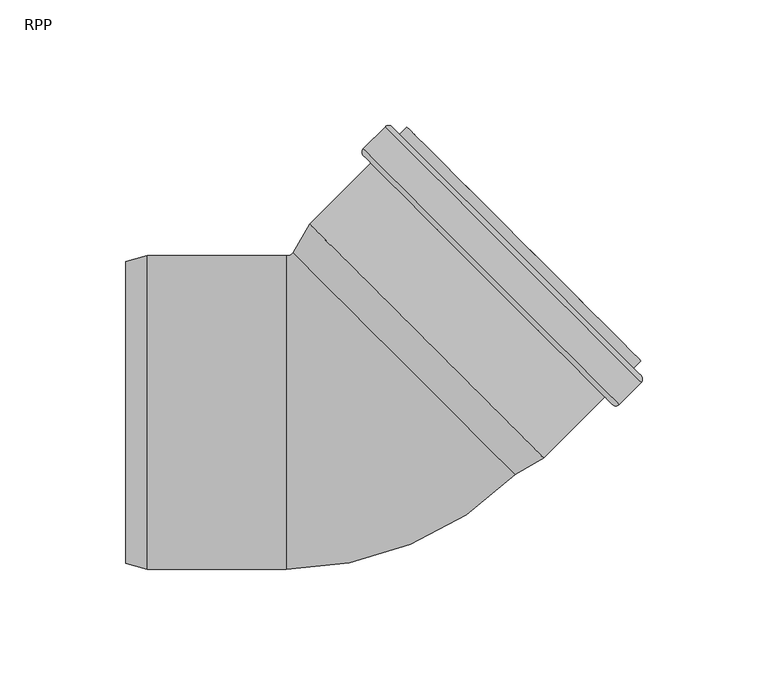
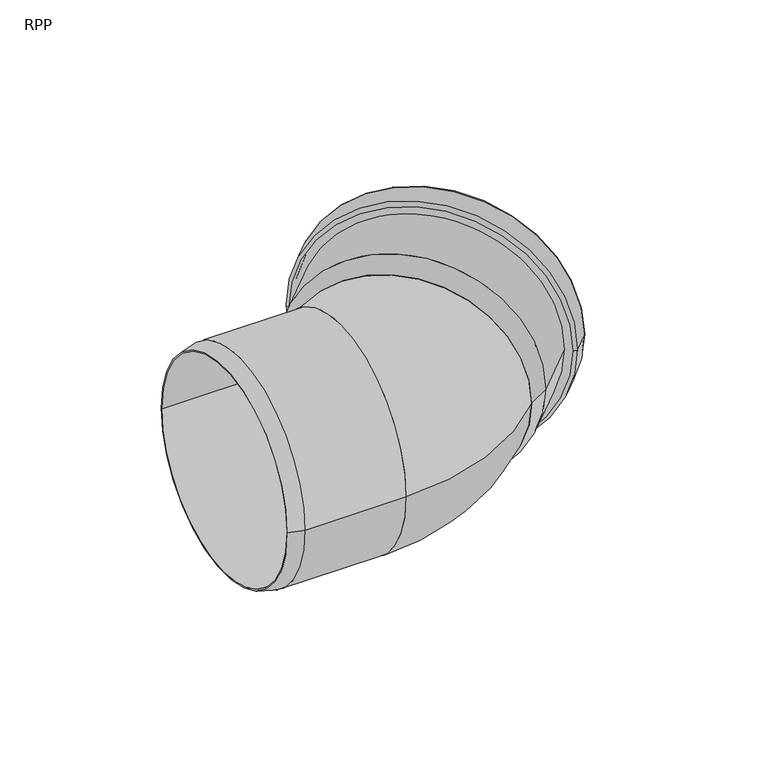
"""IFC4 building model written with IfcOpenShell, lengths in millimetres: pipe fitting geometry, RAUPIANO PLUS Bend : RPP."""

from ifc_helpers import new_model, si_unit, point, frame, origin, place, context, project, spatial, polyline, circle_curve, ellipse_curve, trimmed, source, transform, mapped, element, save
from ifc_brep_helpers import plane_surface, cylinder_surface, revolved_surface, advanced_brep


def rpp_f0f5f403(model_context):
    return source(origin(), model_context, "Body", "AdvancedBrep", [
        advanced_brep(
        [(61.4022154, -22.4474173, 0.0), (-22.4474173, 61.4022154, 0.0), (-15.6678618, 73.1447499, 0.0), (73.1447499, -15.6678618, 0.0), (75.0481946, -18.1484792, 0.0), (-18.1484792, 75.0481946, 0.0), (-24.7167748, 63.6715729, 0.0), (63.6715729, -24.7167748, 0.0), (99.3804653, 6.1837916, 0.0), (6.1837916, 99.3804653, 0.0), (113.8054437, 11.8406458, 0.0), (11.8406458, 113.8054437, 0.0), (3.2139431, 105.1787409, 0.0), (105.1787409, 3.2139431, 0.0), (113.734733, 20.5380592, 0.0), (20.5380592, 113.734733, 0.0), (17.6389214, 110.8355952, 0.0), (110.8355952, 17.6389214, 0.0), (106.4515331, 17.6389214, 0.0), (17.6389214, 106.4515331, 0.0), (22.7300902, 111.542702, 0.0), (111.542702, 22.7300902, 0.0), (104.1180808, 6.537345, 0.0), (6.537345, 104.1180808, 0.0), (12.901306, 110.4820418, 0.0), (110.4820418, 12.901306, 0.0), (10.5678536, 99.3804653, 0.0), (99.3804653, 10.5678536, 0.0), (3.2139431, 102.3503138, 0.0), (102.3503138, 3.2139431, 0.0), (113.8054437, 14.6690729, 0.0), (14.6690729, 113.8054437, 0.0), (13.6084128, 110.4820418, 0.0), (110.4820418, 13.6084128, 0.0), (103.410974, 6.537345, 0.0), (6.537345, 103.410974, 0.0)],
        [
            (0, 1, circle_curve(frame((19.4773991, 19.4773991, 0.0), z_axis=(-0.7071067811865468, -0.7071067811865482, 0.0), x_axis=(-0.7071067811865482, 0.7071067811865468, 0.0)), 59.2906438)),
            (1, 2),
            (2, 3, circle_curve(frame((28.7384441, 28.7384441, 0.0), z_axis=(0.7071067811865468, 0.7071067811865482, 0.0), x_axis=(-0.7071067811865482, 0.7071067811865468, 0.0)), 62.8)),
            (3, 0),
            (4, 5, circle_curve(frame((28.4498577, 28.4498577, 0.0), z_axis=(-0.7071067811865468, -0.7071067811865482, 0.0), x_axis=(-0.7071067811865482, 0.7071067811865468, 0.0)), 65.9)),
            (5, 6),
            (6, 7, circle_curve(frame((19.4773991, 19.4773991, 0.0), z_axis=(0.7071067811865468, 0.7071067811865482, 0.0), x_axis=(-0.7071067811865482, 0.7071067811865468, 0.0)), 62.5)),
            (7, 4),
            (8, 9, circle_curve(frame((52.7821284, 52.7821284, 0.0), z_axis=(-0.7071067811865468, -0.7071067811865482, 0.0), x_axis=(-0.7071067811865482, 0.7071067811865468, 0.0)), 65.9)),
            (9, 5),
            (4, 8),
            (10, 11, circle_curve(frame((62.8230447, 62.8230447, 0.0), z_axis=(-0.7071067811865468, -0.7071067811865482, 0.0), x_axis=(-0.7071067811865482, 0.7071067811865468, 0.0)), 72.1)),
            (11, 12),
            (12, 13, circle_curve(frame((54.196342, 54.196342, 0.0), z_axis=(0.7071067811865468, 0.7071067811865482, 0.0), x_axis=(-0.7071067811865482, 0.7071067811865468, 0.0)), 72.1)),
            (13, 10),
            (14, 15, circle_curve(frame((67.1363961, 67.1363961, 0.0), z_axis=(-0.7071067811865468, -0.7071067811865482, 0.0), x_axis=(-0.7071067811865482, 0.7071067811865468, 0.0)), 65.9)),
            (15, 16),
            (16, 17, circle_curve(frame((64.2372583, 64.2372583, 0.0), z_axis=(0.7071067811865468, 0.7071067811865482, 0.0), x_axis=(-0.7071067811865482, 0.7071067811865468, 0.0)), 65.9)),
            (17, 14),
            (18, 19, circle_curve(frame((62.0452273, 62.0452273, 0.0), z_axis=(-0.7071067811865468, -0.7071067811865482, 0.0), x_axis=(-0.7071067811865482, 0.7071067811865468, 0.0)), 62.8)),
            (19, 20),
            (20, 21, circle_curve(frame((67.1363961, 67.1363961, 0.0), z_axis=(0.7071067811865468, 0.7071067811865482, 0.0), x_axis=(-0.7071067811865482, 0.7071067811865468, 0.0)), 62.8)),
            (21, 18),
            (22, 23, circle_curve(frame((55.3277129, 55.3277129, 0.0), z_axis=(-0.7071067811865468, -0.7071067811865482, 0.0), x_axis=(-0.7071067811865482, 0.7071067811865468, 0.0)), 69.0)),
            (23, 24),
            (24, 25, circle_curve(frame((61.6916739, 61.6916739, 0.0), z_axis=(0.7071067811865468, 0.7071067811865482, 0.0), x_axis=(-0.7071067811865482, 0.7071067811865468, 0.0)), 69.0)),
            (25, 22),
            (2, 26),
            (26, 27, circle_curve(frame((54.9741595, 54.9741595, 0.0), z_axis=(0.7071067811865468, 0.7071067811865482, 0.0), x_axis=(-0.7071067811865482, 0.7071067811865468, 0.0)), 62.8)),
            (27, 3),
            (1, 0, circle_curve(frame((19.4773991, 19.4773991, 0.0), z_axis=(-0.7071067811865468, -0.7071067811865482, 0.0), x_axis=(0.7071067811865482, -0.7071067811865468, 0.0)), 59.2906438)),
            (3, 2, circle_curve(frame((28.7384441, 28.7384441, 0.0), z_axis=(0.7071067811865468, 0.7071067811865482, 0.0), x_axis=(0.7071067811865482, -0.7071067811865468, 0.0)), 62.8)),
            (6, 7, circle_curve(frame((19.4773991, 19.4773991, 0.0), z_axis=(-0.7071067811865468, -0.7071067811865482, 0.0), x_axis=(0.7071067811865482, -0.7071067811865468, 0.0)), 62.5)),
            (5, 4, circle_curve(frame((28.4498577, 28.4498577, 0.0), z_axis=(-0.7071067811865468, -0.7071067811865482, 0.0), x_axis=(0.7071067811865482, -0.7071067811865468, 0.0)), 65.9)),
            (9, 8, circle_curve(frame((52.7821284, 52.7821284, 0.0), z_axis=(-0.7071067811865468, -0.7071067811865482, 0.0), x_axis=(0.7071067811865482, -0.7071067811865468, 0.0)), 65.9)),
            (28, 29, circle_curve(frame((52.7821284, 52.7821284, 0.0), z_axis=(-0.7071067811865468, -0.7071067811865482, 0.0), x_axis=(0.7071067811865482, -0.7071067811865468, 0.0)), 70.1)),
            (29, 28, circle_curve(frame((52.7821284, 52.7821284, 0.0), z_axis=(-0.7071067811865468, -0.7071067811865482, 0.0), x_axis=(-0.7071067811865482, 0.7071067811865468, 0.0)), 70.1)),
            (11, 10, circle_curve(frame((62.8230447, 62.8230447, 0.0), z_axis=(-0.7071067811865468, -0.7071067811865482, 0.0), x_axis=(0.7071067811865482, -0.7071067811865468, 0.0)), 72.1)),
            (13, 12, circle_curve(frame((54.196342, 54.196342, 0.0), z_axis=(0.7071067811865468, 0.7071067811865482, 0.0), x_axis=(0.7071067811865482, -0.7071067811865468, 0.0)), 72.1)),
            (30, 31, circle_curve(frame((64.2372583, 64.2372583, 0.0), z_axis=(0.7071067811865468, 0.7071067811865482, 0.0), x_axis=(0.7071067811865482, -0.7071067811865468, 0.0)), 70.1)),
            (31, 30, circle_curve(frame((64.2372583, 64.2372583, 0.0), z_axis=(0.7071067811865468, 0.7071067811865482, 0.0), x_axis=(-0.7071067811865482, 0.7071067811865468, 0.0)), 70.1)),
            (16, 17, circle_curve(frame((64.2372583, 64.2372583, 0.0), z_axis=(-0.7071067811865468, -0.7071067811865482, 0.0), x_axis=(0.7071067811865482, -0.7071067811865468, 0.0)), 65.9)),
            (15, 14, circle_curve(frame((67.1363961, 67.1363961, 0.0), z_axis=(-0.7071067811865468, -0.7071067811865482, 0.0), x_axis=(0.7071067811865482, -0.7071067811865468, 0.0)), 65.9)),
            (20, 21, circle_curve(frame((67.1363961, 67.1363961, 0.0), z_axis=(-0.7071067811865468, -0.7071067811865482, 0.0), x_axis=(0.7071067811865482, -0.7071067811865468, 0.0)), 62.8)),
            (19, 18, circle_curve(frame((62.0452273, 62.0452273, 0.0), z_axis=(-0.7071067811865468, -0.7071067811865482, 0.0), x_axis=(0.7071067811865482, -0.7071067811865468, 0.0)), 62.8)),
            (32, 33, circle_curve(frame((62.0452273, 62.0452273, 0.0), z_axis=(-0.7071067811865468, -0.7071067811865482, 0.0), x_axis=(0.7071067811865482, -0.7071067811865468, 0.0)), 68.5)),
            (33, 32, circle_curve(frame((62.0452273, 62.0452273, 0.0), z_axis=(-0.7071067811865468, -0.7071067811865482, 0.0), x_axis=(-0.7071067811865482, 0.7071067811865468, 0.0)), 68.5)),
            (23, 22, circle_curve(frame((55.3277129, 55.3277129, 0.0), z_axis=(-0.7071067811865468, -0.7071067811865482, 0.0), x_axis=(0.7071067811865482, -0.7071067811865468, 0.0)), 69.0)),
            (25, 24, circle_curve(frame((61.6916739, 61.6916739, 0.0), z_axis=(0.7071067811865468, 0.7071067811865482, 0.0), x_axis=(0.7071067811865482, -0.7071067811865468, 0.0)), 69.0)),
            (34, 35, circle_curve(frame((54.9741595, 54.9741595, 0.0), z_axis=(0.7071067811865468, 0.7071067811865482, 0.0), x_axis=(0.7071067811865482, -0.7071067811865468, 0.0)), 68.5)),
            (35, 34, circle_curve(frame((54.9741595, 54.9741595, 0.0), z_axis=(0.7071067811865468, 0.7071067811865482, 0.0), x_axis=(-0.7071067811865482, 0.7071067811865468, 0.0)), 68.5)),
            (26, 27, circle_curve(frame((54.9741595, 54.9741595, 0.0), z_axis=(-0.7071067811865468, -0.7071067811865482, 0.0), x_axis=(0.7071067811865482, -0.7071067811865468, 0.0)), 62.8)),
            (12, 28, circle_curve(frame((4.6281566, 103.7645274, 0.0), z_axis=(0.0, 0.0, 1.0), x_axis=(0.7071067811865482, -0.7071067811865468, 0.0)), 2.0)),
            (29, 13, circle_curve(frame((103.7645274, 4.6281566, 0.0), z_axis=(0.0, 0.0, 1.0), x_axis=(-0.7071067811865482, 0.7071067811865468, 0.0)), 2.0)),
            (31, 11, circle_curve(frame((13.2548594, 112.3912301, 0.0), z_axis=(0.0, 0.0, 1.0), x_axis=(0.7071067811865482, -0.7071067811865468, 0.0)), 2.0)),
            (10, 30, circle_curve(frame((112.3912301, 13.2548594, 0.0), z_axis=(0.0, 0.0, 1.0), x_axis=(-0.7071067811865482, 0.7071067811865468, 0.0)), 2.0)),
            (24, 32, circle_curve(frame((13.2548594, 110.1284884, 0.0), z_axis=(0.0, 0.0, -1.0), x_axis=(0.7071067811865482, -0.7071067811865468, 0.0)), 0.5)),
            (33, 25, circle_curve(frame((110.1284884, 13.2548594, 0.0), z_axis=(0.0, 0.0, -1.0), x_axis=(-0.7071067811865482, 0.7071067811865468, 0.0)), 0.5)),
            (35, 23, circle_curve(frame((6.8908983, 103.7645274, 0.0), z_axis=(0.0, 0.0, -1.0), x_axis=(0.7071067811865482, -0.7071067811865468, 0.0)), 0.5)),
            (22, 34, circle_curve(frame((103.7645274, 6.8908983, 0.0), z_axis=(0.0, 0.0, -1.0), x_axis=(-0.7071067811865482, 0.7071067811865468, 0.0)), 0.5)),
        ],
        [
            revolved_surface(polyline([(-15.6678618, 73.1447499, 0.0), (-22.4474173, 61.4022154, 0.0)]), (19.4773991, 19.4773991, 0.0), (0.7071067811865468, 0.7071067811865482, 0.0)),
            revolved_surface(polyline([(-24.7167748, 63.6715729, 0.0), (-18.1484792, 75.0481946, 0.0)]), (19.4773991, 19.4773991, 0.0), (0.7071067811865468, 0.7071067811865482, 0.0)),
            cylinder_surface(frame((19.4773991, 19.4773991, 0.0), z_axis=(0.7071067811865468, 0.7071067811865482, 0.0), x_axis=(-0.7071067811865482, 0.7071067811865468, 0.0)), 65.9),
            cylinder_surface(frame((19.4773991, 19.4773991, 0.0), z_axis=(0.7071067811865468, 0.7071067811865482, 0.0), x_axis=(-0.7071067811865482, 0.7071067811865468, 0.0)), 72.1),
            revolved_surface(polyline([(22.730090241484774, 111.54270195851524, 0.0), (17.638921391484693, 106.45153310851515, 0.0)]), (19.4773991, 19.4773991, 0.0), (0.7071067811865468, 0.7071067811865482, 0.0)),
            revolved_surface(polyline([(12.901305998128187, 110.48204180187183, 0.0), (6.537344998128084, 104.11808080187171, 0.0)]), (19.4773991, 19.4773991, 0.0), (0.7071067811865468, 0.7071067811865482, 0.0)),
            revolved_surface(polyline([(10.567853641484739, 99.38046535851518, 0.0), (-15.66786180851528, 73.14474990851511, 0.0)]), (19.4773991, 19.4773991, 0.0), (0.7071067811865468, 0.7071067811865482, 0.0)),
            revolved_surface(polyline([(73.1447499, -15.6678618, 0.0), (61.4022154, -22.4474173, 0.0)]), (19.4773991, 19.4773991, 0.0), (0.7071067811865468, 0.7071067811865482, 0.0)),
            plane_surface(frame((19.4773991, 19.4773991, 0.0), z_axis=(-0.7071067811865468, -0.7071067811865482, 0.0), x_axis=(0.7071067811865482, -0.7071067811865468, 0.0))),
            revolved_surface(polyline([(63.6715729, -24.7167748, 0.0), (75.0481946, -18.1484792, 0.0)]), (19.4773991, 19.4773991, 0.0), (0.7071067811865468, 0.7071067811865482, 0.0)),
            cylinder_surface(frame((19.4773991, 19.4773991, 0.0), z_axis=(0.7071067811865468, 0.7071067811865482, 0.0), x_axis=(0.7071067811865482, -0.7071067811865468, 0.0)), 65.9),
            plane_surface(frame((52.7821284, 52.7821284, 0.0), z_axis=(-0.7071067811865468, -0.7071067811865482, 0.0), x_axis=(0.7071067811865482, -0.7071067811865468, 0.0))),
            cylinder_surface(frame((19.4773991, 19.4773991, 0.0), z_axis=(0.7071067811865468, 0.7071067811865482, 0.0), x_axis=(0.7071067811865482, -0.7071067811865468, 0.0)), 72.1),
            plane_surface(frame((64.2372583, 64.2372583, 0.0), z_axis=(0.7071067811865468, 0.7071067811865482, 0.0), x_axis=(0.7071067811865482, -0.7071067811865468, 0.0))),
            plane_surface(frame((67.1363961, 67.1363961, 0.0), z_axis=(0.7071067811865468, 0.7071067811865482, 0.0), x_axis=(0.7071067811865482, -0.7071067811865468, 0.0))),
            revolved_surface(polyline([(111.54270195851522, 22.73009024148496, 0.0), (106.45153310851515, 17.638921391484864, 0.0)]), (19.4773991, 19.4773991, 0.0), (0.7071067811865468, 0.7071067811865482, 0.0)),
            plane_surface(frame((62.0452273, 62.0452273, 0.0), z_axis=(-0.7071067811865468, -0.7071067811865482, 0.0), x_axis=(0.7071067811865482, -0.7071067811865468, 0.0))),
            revolved_surface(polyline([(110.48204180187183, 12.901305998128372, 0.0), (104.11808080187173, 6.537344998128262, 0.0)]), (19.4773991, 19.4773991, 0.0), (0.7071067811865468, 0.7071067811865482, 0.0)),
            plane_surface(frame((54.9741595, 54.9741595, 0.0), z_axis=(0.7071067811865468, 0.7071067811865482, 0.0), x_axis=(0.7071067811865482, -0.7071067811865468, 0.0))),
            revolved_surface(polyline([(99.38046535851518, 10.567853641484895, 0.0), (73.14474990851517, -15.667861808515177, 0.0)]), (19.4773991, 19.4773991, 0.0), (0.7071067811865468, 0.7071067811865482, 0.0)),
            revolved_surface(trimmed(ellipse_curve(frame((4.6281566, 103.7645274, 0.0), z_axis=(0.0, 0.0, -1.0), x_axis=(0.7071067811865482, -0.7071067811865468, 0.0)), 2.0, 2.0), [point((3.2139431, 102.3503138, 0.0))], [point((3.2139431, 105.1787409, 0.0))], True, "CARTESIAN"), (19.4773991, 19.4773991, 0.0), (0.7071067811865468, 0.7071067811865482, 0.0)),
            revolved_surface(trimmed(ellipse_curve(frame((13.2548594, 112.3912301, 0.0), z_axis=(0.0, 0.0, -1.0), x_axis=(0.7071067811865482, -0.7071067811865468, 0.0)), 2.0, 2.0), [point((11.8406458, 113.8054437, 0.0))], [point((14.6690729, 113.8054437, 0.0))], True, "CARTESIAN"), (19.4773991, 19.4773991, 0.0), (0.7071067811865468, 0.7071067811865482, 0.0)),
            revolved_surface(trimmed(ellipse_curve(frame((13.2548594, 110.1284884, 0.0), z_axis=(0.0, 0.0, 1.0), x_axis=(0.7071067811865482, -0.7071067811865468, 0.0)), 0.5, 0.5), [point((13.6084128, 110.4820418, 0.0))], [point((12.901306, 110.4820418, 0.0))], True, "CARTESIAN"), (19.4773991, 19.4773991, 0.0), (0.7071067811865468, 0.7071067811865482, 0.0)),
            revolved_surface(trimmed(ellipse_curve(frame((6.8908983, 103.7645274, 0.0), z_axis=(0.0, 0.0, 1.0), x_axis=(0.7071067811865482, -0.7071067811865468, 0.0)), 0.5, 0.5), [point((6.537345, 104.1180808, 0.0))], [point((6.537345, 103.410974, 0.0))], True, "CARTESIAN"), (19.4773991, 19.4773991, 0.0), (0.7071067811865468, 0.7071067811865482, 0.0)),
            revolved_surface(trimmed(ellipse_curve(frame((103.7645274, 4.6281566, 0.0), z_axis=(0.0, 0.0, 1.0), x_axis=(-0.7071067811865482, 0.7071067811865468, 0.0)), 2.0, 2.0), [point((102.3503138, 3.2139431, 0.0))], [point((105.1787409, 3.2139431, 0.0))], True, "CARTESIAN"), (19.4773991, 19.4773991, 0.0), (0.7071067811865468, 0.7071067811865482, 0.0)),
            revolved_surface(trimmed(ellipse_curve(frame((112.3912301, 13.2548594, 0.0), z_axis=(0.0, 0.0, 1.0), x_axis=(-0.7071067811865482, 0.7071067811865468, 0.0)), 2.0, 2.0), [point((113.8054437, 11.8406458, 0.0))], [point((113.8054437, 14.6690729, 0.0))], True, "CARTESIAN"), (19.4773991, 19.4773991, 0.0), (0.7071067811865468, 0.7071067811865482, 0.0)),
            revolved_surface(trimmed(ellipse_curve(frame((110.1284884, 13.2548594, 0.0), z_axis=(0.0, 0.0, -1.0), x_axis=(-0.7071067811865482, 0.7071067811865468, 0.0)), 0.5, 0.5), [point((110.4820418, 13.6084128, 0.0))], [point((110.4820418, 12.901306, 0.0))], True, "CARTESIAN"), (19.4773991, 19.4773991, 0.0), (0.7071067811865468, 0.7071067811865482, 0.0)),
            revolved_surface(trimmed(ellipse_curve(frame((103.7645274, 6.8908983, 0.0), z_axis=(0.0, 0.0, -1.0), x_axis=(-0.7071067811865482, 0.7071067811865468, 0.0)), 0.5, 0.5), [point((104.1180808, 6.537345, 0.0))], [point((103.410974, 6.537345, 0.0))], True, "CARTESIAN"), (19.4773991, 19.4773991, 0.0), (0.7071067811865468, 0.7071067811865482, 0.0)),
        ],
        [
            (0, [[1, 2, 3, 4]]),
            (1, [[5, 6, 7, 8]]),
            (2, [[9, 10, -5, 11]]),
            (3, [[12, 13, 14, 15]]),
            (2, [[16, 17, 18, 19]]),
            (4, [[20, 21, 22, 23]]),
            (5, [[24, 25, 26, 27]]),
            (6, [[-3, 28, 29, 30]]),
            (7, [[31, -4, 32, -2]]),
            (8, [[33, -7], [-31, -1]]),
            (9, [[34, -8, -33, -6]]),
            (10, [[35, -11, -34, -10]]),
            (11, [[36, 37], [-35, -9]]),
            (12, [[38, -15, 39, -13]]),
            (13, [[40, 41], [42, -18]]),
            (10, [[43, -19, -42, -17]]),
            (14, [[-43, -16], [44, -22]]),
            (15, [[45, -23, -44, -21]]),
            (16, [[46, 47], [-45, -20]]),
            (17, [[48, -27, 49, -25]]),
            (18, [[50, 51], [52, -29]]),
            (19, [[-32, -30, -52, -28]]),
            (20, [[-14, 53, -37, 54]]),
            (21, [[-41, 55, -12, 56]]),
            (22, [[-26, 57, -47, 58]]),
            (23, [[-51, 59, -24, 60]]),
            (24, [[-39, -54, -36, -53]]),
            (25, [[-40, -56, -38, -55]]),
            (26, [[-49, -58, -46, -57]]),
            (27, [[-50, -60, -48, -59]]),
        ],
    ),
        advanced_brep(
        [(-27.5452019, 59.4, 0.0), (-27.5452019, -59.4, 0.0), (-91.5452019, -59.4, 0.0), (-91.5452019, 59.4, 0.0), (-82.961485, 62.5, 0.0), (-82.961485, -62.5, 0.0), (-27.5452019, -62.5, 0.0), (-27.5452019, 62.5, 0.0), (-91.5452019, 60.2, 0.0), (-91.5452019, -60.2, 0.0)],
        [
            (0, 1, circle_curve(frame((-27.5452019, 0.0, 0.0), z_axis=(1.0, 0.0, 0.0), x_axis=(0.0, -1.0, 0.0)), 59.4)),
            (1, 2),
            (2, 3, circle_curve(frame((-91.5452019, 0.0, 0.0), z_axis=(-1.0, 0.0, 0.0), x_axis=(0.0, -1.0, 0.0)), 59.4)),
            (3, 0),
            (4, 5, circle_curve(frame((-82.961485, 0.0, 0.0), z_axis=(1.0, 0.0, 0.0), x_axis=(0.0, -1.0, 0.0)), 62.5)),
            (5, 6),
            (6, 7, circle_curve(frame((-27.5452019, 0.0, 0.0), z_axis=(-1.0, 0.0, 0.0), x_axis=(0.0, -1.0, 0.0)), 62.5)),
            (7, 4),
            (8, 9, circle_curve(frame((-91.5452019, 0.0, 0.0), z_axis=(1.0, 0.0, 0.0), x_axis=(0.0, -1.0, 0.0)), 60.2)),
            (9, 5),
            (4, 8),
            (1, 0, circle_curve(frame((-27.5452019, 0.0, 0.0), z_axis=(1.0, 0.0, 0.0), x_axis=(0.0, 1.0, 0.0)), 59.4)),
            (3, 2, circle_curve(frame((-91.5452019, 0.0, 0.0), z_axis=(-1.0, 0.0, 0.0), x_axis=(0.0, 1.0, 0.0)), 59.4)),
            (6, 7, circle_curve(frame((-27.5452019, 0.0, 0.0), z_axis=(1.0, 0.0, 0.0), x_axis=(0.0, 1.0, 0.0)), 62.5)),
            (5, 4, circle_curve(frame((-82.961485, 0.0, 0.0), z_axis=(1.0, 0.0, 0.0), x_axis=(0.0, 1.0, 0.0)), 62.5)),
            (9, 8, circle_curve(frame((-91.5452019, 0.0, 0.0), z_axis=(1.0, 0.0, 0.0), x_axis=(0.0, 1.0, 0.0)), 60.2)),
        ],
        [
            revolved_surface(polyline([(-91.5452019, -59.4, 0.0), (-27.5452019, -59.4, 0.0)]), (-27.5452019, 0.0, 0.0), (-1.0, 0.0, 0.0)),
            cylinder_surface(frame((-27.5452019, 0.0, 0.0), z_axis=(-1.0, 0.0, 0.0), x_axis=(0.0, -1.0, 0.0)), 62.5),
            revolved_surface(polyline([(-82.961485, -62.5, 0.0), (-91.5452019, -60.2, 0.0)]), (-27.5452019, 0.0, 0.0), (-1.0, 0.0, 0.0)),
            revolved_surface(polyline([(-91.5452019, 59.4, 0.0), (-27.5452019, 59.4, 0.0)]), (-27.5452019, 0.0, 0.0), (-1.0, 0.0, 0.0)),
            plane_surface(frame((-27.5452019, 0.0, 0.0), z_axis=(1.0, 0.0, 0.0), x_axis=(0.0, 1.0, 0.0))),
            cylinder_surface(frame((-27.5452019, 0.0, 0.0), z_axis=(-1.0, 0.0, 0.0), x_axis=(0.0, 1.0, 0.0)), 62.5),
            revolved_surface(polyline([(-82.961485, 62.5, 0.0), (-91.5452019, 60.2, 0.0)]), (-27.5452019, 0.0, 0.0), (-1.0, 0.0, 0.0)),
            plane_surface(frame((-91.5452019, 0.0, 0.0), z_axis=(-1.0, 0.0, 0.0), x_axis=(0.0, 1.0, 0.0))),
        ],
        [
            (0, [[1, 2, 3, 4]]),
            (1, [[5, 6, 7, 8]]),
            (2, [[9, 10, -5, 11]]),
            (3, [[12, -4, 13, -2]]),
            (4, [[14, -7], [-12, -1]]),
            (5, [[15, -8, -14, -6]]),
            (6, [[16, -11, -15, -10]]),
            (7, [[-16, -9], [-13, -3]]),
        ],
    ),
        advanced_brep(
        [(-27.5452019, -62.5, 0.0), (-27.5452019, 62.5, 0.0), (-27.5452019, -59.4, 0.0), (-27.5452019, 59.4, 0.0), (63.6715729, -24.7167748, 0.0), (-24.7167748, 63.6715729, 0.0), (61.4795419, -22.5247438, 0.0), (-22.5247438, 61.4795419, 0.0)],
        [
            (0, 1, circle_curve(frame((-27.5452019, 0.0, 0.0), z_axis=(-1.0, 0.0, 0.0), x_axis=(0.0, 1.0, 0.0)), 62.5)),
            (1, 0, circle_curve(frame((-27.5452019, 0.0, 0.0), z_axis=(-1.0, 0.0, 0.0), x_axis=(0.0, 1.0, 0.0)), 62.5)),
            (2, 3, circle_curve(frame((-27.5452019, 0.0, 0.0), z_axis=(1.0, 0.0, 0.0), x_axis=(0.0, 1.0, 0.0)), 59.4)),
            (3, 2, circle_curve(frame((-27.5452019, 0.0, 0.0), z_axis=(1.0, 0.0, 0.0), x_axis=(0.0, 1.0, 0.0)), 59.4)),
            (4, 5, circle_curve(frame((19.4773991, 19.4773991, 0.0), z_axis=(0.7071067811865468, 0.7071067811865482, 0.0), x_axis=(-0.7071067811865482, 0.7071067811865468, 0.0)), 62.5)),
            (5, 4, circle_curve(frame((19.4773991, 19.4773991, 0.0), z_axis=(0.7071067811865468, 0.7071067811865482, 0.0), x_axis=(-0.7071067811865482, 0.7071067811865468, 0.0)), 62.5)),
            (6, 7, circle_curve(frame((19.4773991, 19.4773991, 0.0), z_axis=(-0.7071067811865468, -0.7071067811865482, 0.0), x_axis=(-0.7071067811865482, 0.7071067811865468, 0.0)), 59.4)),
            (7, 6, circle_curve(frame((19.4773991, 19.4773991, 0.0), z_axis=(-0.7071067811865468, -0.7071067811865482, 0.0), x_axis=(-0.7071067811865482, 0.7071067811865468, 0.0)), 59.4)),
            (7, 3, circle_curve(frame((-27.5452019, 66.5, 0.0), z_axis=(0.0, 0.0, -1.0), x_axis=(0.0, -1.0, 0.0)), 7.1)),
            (2, 6, circle_curve(frame((-27.5452019, 66.5, 0.0), z_axis=(0.0, 0.0, 1.0), x_axis=(0.0, -1.0, 0.0)), 125.9)),
            (5, 1, circle_curve(frame((-27.5452019, 66.5, 0.0), z_axis=(0.0, 0.0, -1.0), x_axis=(0.0, -1.0, 0.0)), 4.0)),
            (0, 4, circle_curve(frame((-27.5452019, 66.5, 0.0), z_axis=(0.0, 0.0, 1.0), x_axis=(0.0, -1.0, 0.0)), 129.0)),
        ],
        [
            plane_surface(frame((-27.5452019, 0.0, 0.0), z_axis=(-1.0, 0.0, 0.0), x_axis=(0.0, 0.0, 1.0))),
            plane_surface(frame((19.4773991, 19.4773991, 0.0), z_axis=(0.7071067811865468, 0.7071067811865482, 0.0), x_axis=(0.0, 0.0, 1.0))),
            revolved_surface(trimmed(ellipse_curve(frame((-27.5452019, 0.0, 0.0), z_axis=(1.0, 0.0, 0.0), x_axis=(0.0, 1.0, 0.0)), 59.4, 59.4), [point((-27.5452019, -59.4, 0.0))], [point((-27.5452019, 59.4, 0.0))], True, "CARTESIAN"), (-27.5452019, 66.5, 0.0), (0.0, 0.0, 1.0)),
            revolved_surface(trimmed(ellipse_curve(frame((-27.5452019, 0.0, 0.0), z_axis=(1.0, 0.0, 0.0), x_axis=(0.0, 1.0, 0.0)), 59.4, 59.4), [point((-27.5452019, 59.4, 0.0))], [point((-27.5452019, -59.4, 0.0))], True, "CARTESIAN"), (-27.5452019, 66.5, 0.0), (0.0, 0.0, 1.0)),
            revolved_surface(trimmed(ellipse_curve(frame((-27.5452019, 0.0, 0.0), z_axis=(-1.0, 0.0, 0.0), x_axis=(0.0, 1.0, 0.0)), 62.5, 62.5), [point((-27.5452019, -62.5, 0.0))], [point((-27.5452019, 62.5, 0.0))], True, "CARTESIAN"), (-27.5452019, 66.5, 0.0), (0.0, 0.0, 1.0)),
            revolved_surface(trimmed(ellipse_curve(frame((-27.5452019, 0.0, 0.0), z_axis=(-1.0, 0.0, 0.0), x_axis=(0.0, 1.0, 0.0)), 62.5, 62.5), [point((-27.5452019, 62.5, 0.0))], [point((-27.5452019, -62.5, 0.0))], True, "CARTESIAN"), (-27.5452019, 66.5, 0.0), (0.0, 0.0, 1.0)),
        ],
        [
            (0, [[1, 2], [3, 4]]),
            (1, [[5, 6], [7, 8]]),
            (2, [[9, -3, 10, -8]]),
            (3, [[-10, -4, -9, -7]]),
            (4, [[11, -1, 12, -6]]),
            (5, [[-12, -2, -11, -5]]),
        ],
    ),
    ])


if __name__ == "__main__":
    model = new_model("IFC4")
    model_context = context("Model", 3, world=origin())
    ifc_project = project(units=[si_unit("LENGTHUNIT", "METRE", prefix="MILLI")], contexts=[model_context])
    site = spatial("IfcSite", under=ifc_project)
    building = spatial("IfcBuilding", under=site)
    placement = place(None, origin())
    rpp_shape = rpp_f0f5f403(model_context)
    element("IfcPipeFitting", 1, ObjectType="RAUPIANO PLUS Bend : RPP", at=placement, inside=building, context=model_context, shape_type="MappedRepresentation", body=[
        mapped(rpp_shape, transform((0.0, 0.0, 0.0), x_axis=(1.0, 0.0, 0.0), y_axis=(0.0, 1.0, 0.0), z_axis=(0.0, 0.0, 1.0))),
    ])
    save(model, "model.ifc")
